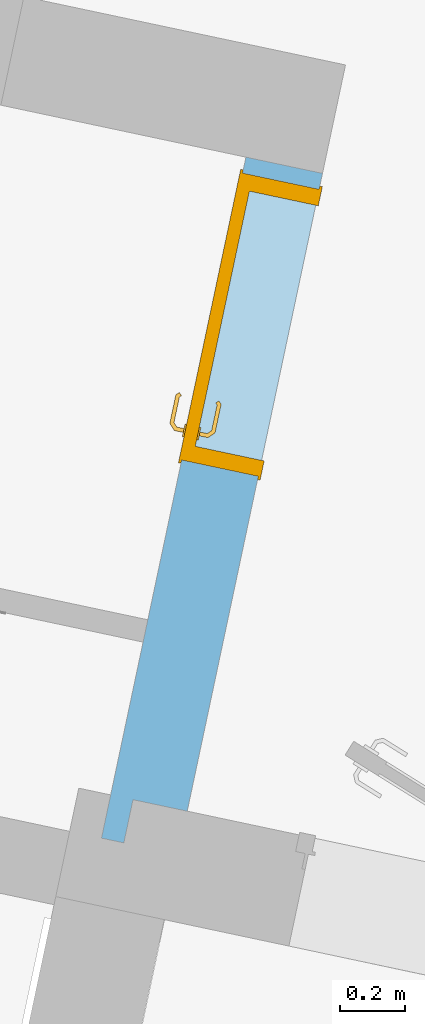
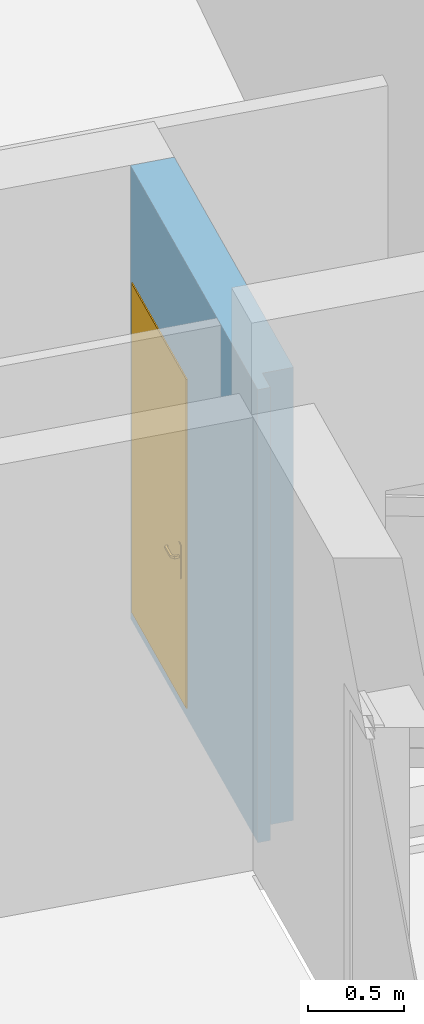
"""IFC2X3 building model written with IfcOpenShell, lengths in metres."""

from ifc_helpers import new_model, entity, si_unit, converted_unit, derived_unit, direction, frame, frame_2d, origin, place, context, subcontext, project, spatial, polyline, rectangle, outline, extrude, faceted_brep, source, transform, mapped, material, material_list, layer, layer_set, layer_usage, type_object, type_shapes, element, fill, save


model = new_model("IFC2X3")

# Units and contexts
model_context = context("Model", 3, precision=1e-05, world=origin(), true_north=direction((6.12303176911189e-17, 1.0)))
body_context = subcontext(model_context, "Body", "Model", "MODEL_VIEW")
ifc_project = project(units=[si_unit("LENGTHUNIT", "METRE"), si_unit("AREAUNIT", "SQUARE_METRE"), si_unit("VOLUMEUNIT", "CUBIC_METRE"), converted_unit("PLANEANGLEUNIT", "DEGREE", entity("IfcRatioMeasure", 0.0174532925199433), si_unit("PLANEANGLEUNIT", "RADIAN"), dimensions=[0, 0, 0, 0, 0, 0, 0]), si_unit("MASSUNIT", "GRAM", prefix="KILO"), derived_unit("MASSDENSITYUNIT", [(si_unit("MASSUNIT", "GRAM", prefix="KILO"), 1), (si_unit("LENGTHUNIT", "METRE"), -3)]), si_unit("TIMEUNIT", "SECOND"), si_unit("FREQUENCYUNIT", "HERTZ"), si_unit("THERMODYNAMICTEMPERATUREUNIT", "DEGREE_CELSIUS"), derived_unit("THERMALTRANSMITTANCEUNIT", [(si_unit("MASSUNIT", "GRAM", prefix="KILO"), 1), (si_unit("THERMODYNAMICTEMPERATUREUNIT", "KELVIN"), -1), (si_unit("TIMEUNIT", "SECOND"), -3)]), derived_unit("VOLUMETRICFLOWRATEUNIT", [(si_unit("LENGTHUNIT", "METRE"), 3), (si_unit("TIMEUNIT", "SECOND"), -1)]), si_unit("ELECTRICCURRENTUNIT", "AMPERE"), si_unit("ELECTRICVOLTAGEUNIT", "VOLT"), si_unit("POWERUNIT", "WATT"), si_unit("FORCEUNIT", "NEWTON", prefix="KILO"), si_unit("ILLUMINANCEUNIT", "LUX"), si_unit("LUMINOUSFLUXUNIT", "LUMEN"), si_unit("LUMINOUSINTENSITYUNIT", "CANDELA"), derived_unit("USERDEFINED", [(si_unit("MASSUNIT", "GRAM", prefix="KILO"), -1), (si_unit("LENGTHUNIT", "METRE"), -2), (si_unit("TIMEUNIT", "SECOND"), 3), (si_unit("LUMINOUSFLUXUNIT", "LUMEN"), 1)]), derived_unit("LINEARVELOCITYUNIT", [(si_unit("LENGTHUNIT", "METRE"), 1), (si_unit("TIMEUNIT", "SECOND"), -1)]), si_unit("PRESSUREUNIT", "PASCAL"), derived_unit("USERDEFINED", [(si_unit("LENGTHUNIT", "METRE"), -2), (si_unit("MASSUNIT", "GRAM", prefix="KILO"), 1), (si_unit("TIMEUNIT", "SECOND"), -2)])], contexts=[model_context])

# Site, building, storey
site_placement = place(None, origin())
site = spatial("IfcSite", under=ifc_project, at=site_placement, Name="Default", CompositionType="ELEMENT")
building_placement = place(site_placement, origin())
building = spatial("IfcBuilding", under=site, at=building_placement, CompositionType="ELEMENT")
storey_1_placement = place(building_placement, frame((0.0, 0.0, -0.0686871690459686)))
storey_1 = spatial("IfcBuildingStorey", under=building, at=storey_1_placement, Name="RDC", CompositionType="ELEMENT", Elevation=-0.0686871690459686)

# Wall, opening
ifc_material_1 = material(Name="Enduit blanc cassé2")
ifc_layer_1 = layer(ifc_material_1, 0.02)
ifc_material_2 = material(Name="Parpaing")
ifc_layer_2 = layer(ifc_material_2, 0.2)
ifc_layer_3 = layer(ifc_material_1, 0.02)
ifc_layer_set = layer_set([ifc_layer_1, ifc_layer_2, ifc_layer_3], Name="Mur de base:Ext. Parpaing 2 + 20 + 2")
ifc_layer_usage = layer_usage(ifc_layer_set, "AXIS2", "POSITIVE", -0.12)
wall_type = type_object("IfcWallType", Name="Mur de base:Ext. Parpaing 2 + 20 + 2", PredefinedType="STANDARD", material=ifc_layer_set)
wall_placement = place(storey_1_placement, frame((-10.6779610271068, 79.0367575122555, 0.0), z_axis=(0.0, 0.0, 1.0), x_axis=(0.207484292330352, 0.978238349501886, 0.0)))
wall = element("IfcWallStandardCase", 1, at=wall_placement, inside=storey_1, type_object=wall_type, material=ifc_layer_usage, Name="Mur de base:Ext. Parpaing 2 + 20 + 2", ObjectType="Mur de base:Ext. Parpaing 2 + 20 + 2", context=body_context, shape_type="SweptSolid", body=[
    extrude(outline(polyline([(2.13542215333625, -0.119999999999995), (2.13542215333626, 0.120000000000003), (0.684671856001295, 0.120000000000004), (0.614671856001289, 0.120000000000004), (0.0, 0.120000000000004), (0.0, 0.0500000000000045), (0.135422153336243, 0.0500000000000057), (0.135422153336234, -0.119999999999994), (2.13542215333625, -0.119999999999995)])), origin(), (0.0, 0.0, 1.0), 2.86868716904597),
])
opening_placement = place(wall_placement, frame((1.18542215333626, -0.120000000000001, 0.0686871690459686)))
opening = element("IfcOpeningElement", 2, at=opening_placement, cuts=wall, Name="FR_Simple (R):83 x 204 - (80):1", ObjectType="Opening", context=body_context, shape_type="SweptSolid", body=[
    extrude(rectangle(XDim=2.075, YDim=0.9, at=frame_2d((1.0375, 0.45), x_axis=(1.0, 0.0))), frame((0.0, 0.0, 0.0), z_axis=(0.0, 1.0, 0.0), x_axis=(0.0, 0.0, 1.0)), (0.0, 0.0, 1.0), 0.24),
])

# Storey
storey_2_placement = place(building_placement, origin())
storey_2 = spatial("IfcBuildingStorey", under=building, at=storey_2_placement, Name="Plan des fondations  Maisons 1 et 2", CompositionType="ELEMENT", Elevation=0.0)

# Door
ifc_material_3 = material(Name="Poignée Porte")
ifc_material_4 = material(Name="Dormants Portes")
ifc_material_5 = material(Name="Panneaux Portes")
ifc_material_list_1 = material_list([ifc_material_3, ifc_material_4, ifc_material_5])
ifc_material_list_2 = material_list([ifc_material_3, ifc_material_4, ifc_material_5])
door_style = type_object("IfcDoorStyle", Name="83 x 204 - (80)", ConstructionType="NOTDEFINED", OperationType="SINGLE_SWING_RIGHT", ParameterTakesPrecedence=False, Sizeable=False, material=ifc_material_list_2)
shared_shape = source(origin(), body_context, "Body", "Brep", [
    faceted_brep([(0.810000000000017, -0.0130000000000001, 0.764641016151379), (0.820352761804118, -0.0130000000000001, 0.766003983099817), (0.830000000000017, -0.0130000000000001, 0.770000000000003), (0.830000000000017, -0.0130000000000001, 0.980000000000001), (0.820352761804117, -0.0130000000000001, 0.983996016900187), (0.810000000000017, -0.0130000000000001, 0.985358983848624), (0.799647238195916, -0.0130000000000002, 0.983996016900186), (0.790000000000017, -0.0130000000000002, 0.980000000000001), (0.790000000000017, -0.0130000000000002, 0.770000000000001), (0.799647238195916, -0.0130000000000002, 0.766003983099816), (0.830000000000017, -0.00800000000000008, 0.980000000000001), (0.830000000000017, -0.00800000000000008, 0.770000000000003), (0.820352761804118, -0.00800000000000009, 0.766003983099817), (0.810000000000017, -0.00800000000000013, 0.764641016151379), (0.799647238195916, -0.00800000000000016, 0.766003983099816), (0.790000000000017, -0.00800000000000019, 0.770000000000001), (0.790000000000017, -0.00800000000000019, 0.980000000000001), (0.799647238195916, -0.00800000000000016, 0.983996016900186), (0.810000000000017, -0.00800000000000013, 0.985358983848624), (0.820352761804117, -0.00800000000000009, 0.983996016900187)], [[[0, 1, 2, 3, 4, 5, 6, 7, 8, 9]], [[10, 11, 12, 13, 14, 15, 16, 17, 18, 19]], [[1, 12, 11, 2]], [[0, 13, 12, 1]], [[9, 14, 13, 0]], [[9, 8, 15, 14]], [[15, 8, 7, 16]], [[6, 17, 16, 7]], [[5, 18, 17, 6]], [[4, 19, 18, 5]], [[4, 3, 10, 19]], [[10, 3, 2, 11]]]),
    faceted_brep([(0.830000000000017, 0.0319999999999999, 0.770000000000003), (0.830000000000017, 0.0319999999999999, 0.980000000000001), (0.820352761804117, 0.0319999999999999, 0.983996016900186), (0.810000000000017, 0.0319999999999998, 0.985358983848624), (0.799647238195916, 0.0319999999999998, 0.983996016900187), (0.790000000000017, 0.0319999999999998, 0.980000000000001), (0.790000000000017, 0.0319999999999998, 0.770000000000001), (0.799647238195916, 0.0319999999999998, 0.766003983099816), (0.810000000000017, 0.0319999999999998, 0.764641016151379), (0.820352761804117, 0.0319999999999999, 0.766003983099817), (0.810000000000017, 0.0369999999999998, 0.985358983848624), (0.820352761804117, 0.0369999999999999, 0.983996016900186), (0.830000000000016, 0.0369999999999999, 0.980000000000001), (0.830000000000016, 0.0369999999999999, 0.770000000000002), (0.820352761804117, 0.0369999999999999, 0.766003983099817), (0.810000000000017, 0.0369999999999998, 0.764641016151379), (0.799647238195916, 0.0369999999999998, 0.766003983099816), (0.790000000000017, 0.0369999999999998, 0.770000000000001), (0.790000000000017, 0.0369999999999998, 0.980000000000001), (0.799647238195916, 0.0369999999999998, 0.983996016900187)], [[[0, 1, 2, 3, 4, 5, 6, 7, 8, 9]], [[10, 11, 12, 13, 14, 15, 16, 17, 18, 19]], [[4, 19, 18, 5]], [[3, 10, 19, 4]], [[2, 11, 10, 3]], [[2, 1, 12, 11]], [[12, 1, 0, 13]], [[9, 14, 13, 0]], [[8, 15, 14, 9]], [[7, 16, 15, 8]], [[7, 6, 17, 16]], [[17, 6, 5, 18]]]),
    faceted_brep([(0.807974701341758, -0.0130000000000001, 0.907780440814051), (0.812025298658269, -0.0130000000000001, 0.907780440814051), (0.816000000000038, -0.0130000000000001, 0.906999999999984), (0.816000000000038, -0.0130000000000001, 0.892999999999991), (0.812025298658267, -0.0130000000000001, 0.892219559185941), (0.807974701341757, -0.0130000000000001, 0.89221955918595), (0.80399999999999, -0.0130000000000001, 0.893000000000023), (0.803999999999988, -0.0130000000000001, 0.90699999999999), (0.812025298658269, -0.0390045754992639, 0.907780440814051), (0.816000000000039, -0.0406509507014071, 0.906999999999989), (0.807974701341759, -0.0373267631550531, 0.907780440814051), (0.794298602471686, -0.0510028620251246, 0.907780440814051), (0.795976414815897, -0.0550534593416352, 0.907780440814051), (0.709142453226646, -0.0550534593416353, 0.90778044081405), (0.710820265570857, -0.0510028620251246, 0.90778044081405), (0.704342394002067, -0.0445249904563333, 0.90778044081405), (0.701478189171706, -0.0473891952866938, 0.90778044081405), (0.803999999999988, -0.0356803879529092, 0.90699999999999), (0.80399999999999, -0.0356803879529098, 0.893000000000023), (0.807974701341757, -0.0373267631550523, 0.89221955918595), (0.812025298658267, -0.0390045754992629, 0.89221955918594), (0.795976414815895, -0.0550534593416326, 0.89221955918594), (0.794298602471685, -0.0510028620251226, 0.89221955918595), (0.710820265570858, -0.0510028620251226, 0.89221955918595), (0.709142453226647, -0.0550534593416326, 0.89221955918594), (0.701478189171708, -0.0473891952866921, 0.89221955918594), (0.704342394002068, -0.044524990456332, 0.89221955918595), (0.816000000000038, -0.0406509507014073, 0.892999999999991), (0.797622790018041, -0.059028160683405, 0.906999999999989), (0.792652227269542, -0.0470281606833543, 0.90699999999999), (0.792652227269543, -0.0470281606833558, 0.893000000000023), (0.79762279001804, -0.0590281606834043, 0.892999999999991), (0.752559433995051, -0.053182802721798, 0.907878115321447), (0.757692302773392, -0.0590281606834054, 0.906999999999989), (0.707496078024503, -0.0590281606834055, 0.906999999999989), (0.752559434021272, -0.0470281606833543, 0.90699999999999), (0.712466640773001, -0.0470281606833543, 0.906999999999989), (0.752559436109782, -0.0470281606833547, 0.893000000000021), (0.712466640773, -0.0470281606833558, 0.893000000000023), (0.752559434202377, -0.0531828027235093, 0.892121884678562), (0.747426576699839, -0.0590281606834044, 0.892999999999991), (0.707496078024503, -0.0590281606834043, 0.892999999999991), (0.707152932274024, -0.0417144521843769, 0.89300000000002), (0.69866765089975, -0.0501997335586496, 0.892999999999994), (0.698667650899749, -0.0501997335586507, 0.906999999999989), (0.707152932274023, -0.0417144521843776, 0.906999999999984)], [[[0, 1, 2, 3, 4, 5, 6, 7]], [[2, 1, 8, 9]], [[1, 0, 10, 11, 12, 8]], [[13, 14, 15, 16]], [[0, 7, 17, 10]], [[18, 17, 7, 6]], [[5, 19, 18, 6]], [[5, 4, 20, 21, 22, 19]], [[23, 24, 25, 26]], [[3, 27, 20, 4]], [[9, 27, 3, 2]], [[9, 8, 12, 28]], [[10, 17, 29, 11]], [[30, 29, 17, 18]], [[18, 19, 22, 30]], [[20, 27, 31, 21]], [[28, 31, 27, 9]], [[12, 32, 33]], [[13, 33, 32]], [[33, 28, 12]], [[33, 13, 34]], [[11, 35, 32]], [[32, 12, 11]], [[32, 35, 14]], [[35, 11, 29]], [[36, 14, 35]], [[13, 32, 14]], [[30, 37, 38, 36, 35, 29]], [[39, 37, 22]], [[40, 41, 24]], [[40, 21, 31]], [[39, 21, 40]], [[23, 37, 39]], [[39, 24, 23]], [[30, 22, 37]], [[37, 23, 38]], [[21, 39, 22]], [[24, 39, 40]], [[31, 28, 33, 34, 41, 40]], [[42, 26, 25, 43, 44, 16, 15, 45]], [[13, 16, 44, 34]], [[36, 45, 15, 14]], [[42, 45, 36, 38]], [[38, 23, 26, 42]], [[24, 41, 43, 25]], [[44, 43, 41, 34]]]),
    faceted_brep([(0.812025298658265, 0.0369999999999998, 0.907780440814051), (0.807974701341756, 0.0369999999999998, 0.907780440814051), (0.803999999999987, 0.0369999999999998, 0.90699999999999), (0.803999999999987, 0.0369999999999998, 0.89300000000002), (0.807974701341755, 0.0369999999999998, 0.892219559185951), (0.812025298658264, 0.0369999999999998, 0.892219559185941), (0.816000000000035, 0.0369999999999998, 0.892999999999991), (0.816000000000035, 0.0369999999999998, 0.90699999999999), (0.803999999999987, 0.0594852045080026, 0.90699999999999), (0.803999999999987, 0.0594852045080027, 0.89300000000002), (0.807974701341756, 0.0611315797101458, 0.907780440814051), (0.812025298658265, 0.0628093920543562, 0.907780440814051), (0.795838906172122, 0.0789957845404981, 0.907780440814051), (0.794161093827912, 0.0749451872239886, 0.907780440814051), (0.71079312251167, 0.0749451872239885, 0.907780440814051), (0.70911531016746, 0.0789957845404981, 0.907780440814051), (0.701451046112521, 0.071331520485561, 0.907780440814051), (0.70431525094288, 0.0684673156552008, 0.907780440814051), (0.816000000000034, 0.0644557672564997, 0.90699999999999), (0.816000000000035, 0.0644557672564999, 0.892999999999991), (0.812025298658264, 0.0628093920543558, 0.892219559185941), (0.807974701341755, 0.0611315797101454, 0.892219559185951), (0.794161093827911, 0.0749451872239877, 0.892219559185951), (0.795838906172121, 0.0789957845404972, 0.892219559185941), (0.70911531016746, 0.0789957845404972, 0.89221955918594), (0.71079312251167, 0.0749451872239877, 0.89221955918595), (0.704315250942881, 0.0684673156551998, 0.89221955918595), (0.701451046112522, 0.07133152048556, 0.89221955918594), (0.792514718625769, 0.07097048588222, 0.89300000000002), (0.792514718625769, 0.0709704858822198, 0.90699999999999), (0.797485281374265, 0.0829704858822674, 0.90699999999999), (0.797485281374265, 0.082970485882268, 0.892999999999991), (0.752477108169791, 0.0709704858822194, 0.90699999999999), (0.712439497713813, 0.0709704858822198, 0.90699999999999), (0.712439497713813, 0.0709704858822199, 0.89300000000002), (0.752477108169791, 0.0709704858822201, 0.89300000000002), (0.752477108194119, 0.0771249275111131, 0.907878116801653), (0.747399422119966, 0.0829704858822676, 0.90699999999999), (0.707468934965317, 0.0829704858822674, 0.90699999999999), (0.757554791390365, 0.0829704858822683, 0.892999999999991), (0.707468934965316, 0.082970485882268, 0.892999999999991), (0.752477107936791, 0.0771249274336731, 0.892121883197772), (0.698640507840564, 0.0741420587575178, 0.90699999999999), (0.698640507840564, 0.074142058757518, 0.892999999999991), (0.707125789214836, 0.0656567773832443, 0.89300000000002), (0.707125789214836, 0.0656567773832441, 0.90699999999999)], [[[0, 1, 2, 3, 4, 5, 6, 7]], [[8, 9, 3, 2]], [[1, 10, 8, 2]], [[1, 0, 11, 12, 13, 10]], [[14, 15, 16, 17]], [[7, 18, 11, 0]], [[18, 7, 6, 19]], [[6, 5, 20, 19]], [[5, 4, 21, 22, 23, 20]], [[24, 25, 26, 27]], [[4, 3, 9, 21]], [[28, 9, 8, 29]], [[8, 10, 13, 29]], [[18, 30, 12, 11]], [[31, 30, 18, 19]], [[19, 20, 23, 31]], [[21, 9, 28, 22]], [[28, 29, 32, 33, 34, 35]], [[36, 32, 13]], [[37, 38, 15]], [[37, 12, 30]], [[36, 12, 37]], [[14, 32, 36]], [[36, 15, 14]], [[29, 13, 32]], [[32, 14, 33]], [[12, 36, 13]], [[15, 36, 37]], [[30, 31, 39, 40, 38, 37]], [[23, 41, 39]], [[24, 39, 41]], [[39, 31, 23]], [[39, 24, 40]], [[22, 35, 41]], [[41, 23, 22]], [[41, 35, 25]], [[35, 22, 28]], [[34, 25, 35]], [[24, 41, 25]], [[17, 16, 42, 43, 27, 26, 44, 45]], [[44, 34, 33, 45]], [[33, 14, 17, 45]], [[15, 38, 42, 16]], [[42, 38, 40, 43]], [[24, 27, 43, 40]], [[34, 44, 26, 25]]]),
    faceted_brep([(0.900000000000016, 0.0, 0.0), (0.910000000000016, 0.0, 0.0), (0.910000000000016, -0.00799999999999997, 0.0), (0.865000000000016, -0.00799999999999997, 0.0), (0.865000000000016, 0.032, 0.0), (0.850000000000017, 0.032, 0.0), (0.850000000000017, 0.248000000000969, 0.0), (0.910000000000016, 0.248000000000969, 0.0), (0.910000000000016, 0.24000000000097, 0.0), (0.900000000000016, 0.24000000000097, 0.0), (0.900000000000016, 0.24000000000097, 2.075), (0.900000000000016, 0.0, 2.075), (0.910000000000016, 0.24000000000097, 2.085), (-0.00999999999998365, 0.24000000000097, 2.085), (-0.00999999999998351, 0.24000000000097, 0.0), (0.0, 0.24000000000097, 0.0), (0.0, 0.24000000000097, 2.075), (0.910000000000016, 0.248000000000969, 2.085), (0.850000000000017, 0.248000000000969, 2.025), (0.0500000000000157, 0.248000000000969, 2.025), (0.0500000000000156, 0.248000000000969, 0.0), (-0.00999999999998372, 0.248000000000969, 0.0), (-0.00999999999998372, 0.248000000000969, 2.085), (0.850000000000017, 0.032, 2.025), (0.865000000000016, 0.032, 2.04), (0.0350000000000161, 0.032, 2.04), (0.0350000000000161, 0.032, 0.0), (0.0500000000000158, 0.032, 0.0), (0.0500000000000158, 0.032, 2.025), (0.865000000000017, -0.00799999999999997, 2.04), (0.910000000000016, -0.00799999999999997, 2.085), (-0.00999999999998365, -0.00799999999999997, 2.085), (-0.00999999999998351, -0.00799999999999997, 0.0), (0.0350000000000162, -0.00799999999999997, 0.0), (0.0350000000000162, -0.00799999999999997, 2.04), (0.910000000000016, 0.0, 2.085), (0.0, 0.0, 2.075), (0.0, 0.0, 0.0), (-0.00999999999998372, 0.0, 0.0), (-0.00999999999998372, 0.0, 2.085)], [[[0, 1, 2, 3, 4, 5, 6, 7, 8, 9]], [[9, 10, 11, 0]], [[8, 12, 13, 14, 15, 16, 10, 9]], [[7, 17, 12, 8]], [[6, 18, 19, 20, 21, 22, 17, 7]], [[5, 23, 18, 6]], [[4, 24, 25, 26, 27, 28, 23, 5]], [[3, 29, 24, 4]], [[2, 30, 31, 32, 33, 34, 29, 3]], [[1, 35, 30, 2]], [[0, 11, 36, 37, 38, 39, 35, 1]], [[10, 16, 36, 11]], [[17, 22, 13, 12]], [[23, 28, 19, 18]], [[29, 34, 25, 24]], [[35, 39, 31, 30]], [[37, 15, 14, 21, 20, 27, 26, 33, 32, 38]], [[16, 15, 37, 36]], [[22, 21, 14, 13]], [[28, 27, 20, 19]], [[34, 33, 26, 25]], [[39, 38, 32, 31]]]),
    faceted_brep([(0.865000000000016, -0.00799999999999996, 2.04), (0.0350000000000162, -0.00799999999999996, 2.04), (0.0350000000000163, -0.00799999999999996, 0.0), (0.865000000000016, -0.00799999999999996, 0.0), (0.865000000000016, 0.032, 2.04), (0.865000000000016, 0.032, 0.0), (0.0350000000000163, 0.032, 0.0), (0.0350000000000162, 0.032, 2.04)], [[[0, 1, 2, 3]], [[4, 5, 6, 7]], [[3, 5, 4, 0]], [[2, 6, 5, 3]], [[1, 7, 6, 2]], [[0, 4, 7, 1]]]),
])
type_shapes(door_style, [shared_shape])
door_placement = place(opening_placement, frame((0.900000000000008, 0.240000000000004, 0.0), z_axis=(0.0, 0.0, 1.0), x_axis=(-1.0, 0.0, 0.0)))
door = element("IfcDoor", 3, at=door_placement, inside=storey_2, type_object=door_style, material=ifc_material_list_1, Name="FR_Simple (R):83 x 204 - (80)", ObjectType="FR_Simple (R):83 x 204 - (80)", OverallHeight=2.075, OverallWidth=0.900000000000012, context=body_context, shape_type="MappedRepresentation", body=[
    mapped(shared_shape, transform((0.0, 0.0, 0.0), scale=1.0)),
])

fill(opening, door)

save(model, "model.ifc")
